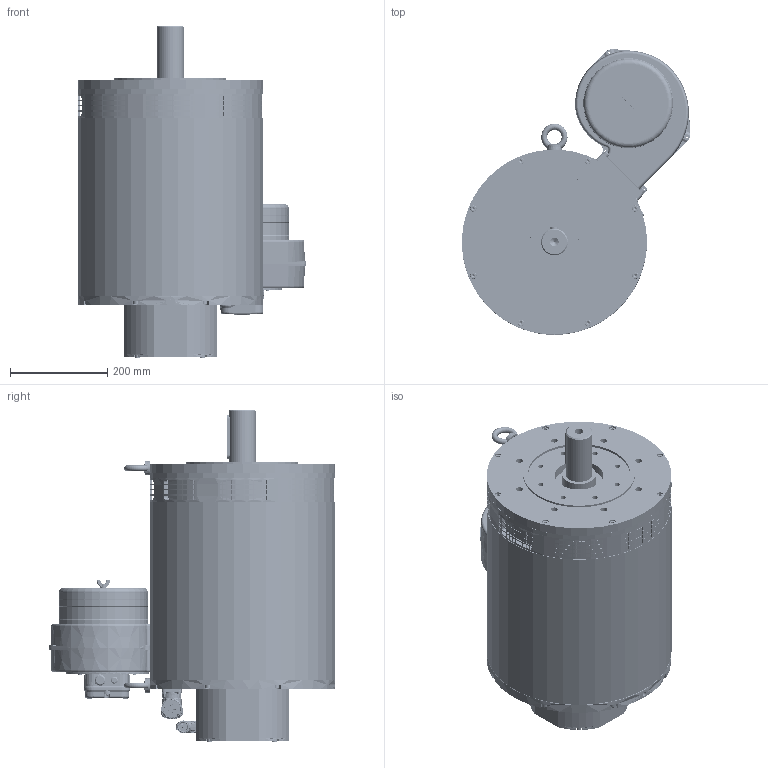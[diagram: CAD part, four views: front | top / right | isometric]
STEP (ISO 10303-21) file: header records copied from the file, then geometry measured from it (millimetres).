
FILE_DESCRIPTION(/* description */ (''),/* implementation_level */ '2;1');
FILE_NAME(/* name */ 'C:\Users\Public\Documents\Autodesk\Inventor LT 2014\Workspace\Motori Sito WEB\TG_9\STEP_DAF_9x\DAF_93_x199.stp',/* time_stamp */ '2021-06-14T14:38:54+02:00',/* author */ ('marcor'),/* organization */ (''),/* preprocessor_version */ 'ST-DEVELOPER v15.2',/* originating_system */ 'Autodesk Inventor LT ',/* authorisation */ '');
FILE_SCHEMA (('AUTOMOTIVE_DESIGN { 1 0 10303 214 3 1 1 }'));
Length unit declared in the file: millimetre
Products named in the file (1): DAF_93_x199
Bounding box: 468.81 x 587.06 x 682 mm (x, y, z)
Volume: 58099887.4 mm3; surface area: 2241024 mm2
Topology: 34 solids, 45 shells, 4997 faces, 13091 edges, 8496 vertices
Faces by surface type: plane 2657, cylinder 1462, cone 499, torus 189, bspline 171, sphere 19
Full cylindrical faces by diameter (mm): 1.2 x12, 2 x98, 2.013 x4, 2.224 x4, 2.5 x4, 2.88 x4, 3.2 x1, 3.242 x4, 3.26 x4, 3.5 x1, 3.6 x5, 4 x9, 4.3 x1, 4.5 x1, 4.8 x4, 4.917 x4, 5.4 x1, 5.5 x1, 5.9 x1, 6 x4, 6.2 x2, 6.3 x2, 6.5 x12, 6.647 x16, 7 x8, 8 x19, 8.5 x1, 9 x16, 9.853 x2, 10 x8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
Entity records: 164751 total; most frequent: CARTESIAN_POINT 41691, DIRECTION 25046, ORIENTED_EDGE 24362, EDGE_CURVE 12181, AXIS2_PLACEMENT_3D 9535, VERTEX_POINT 8279, EDGE_LOOP 6476, LINE 5976
